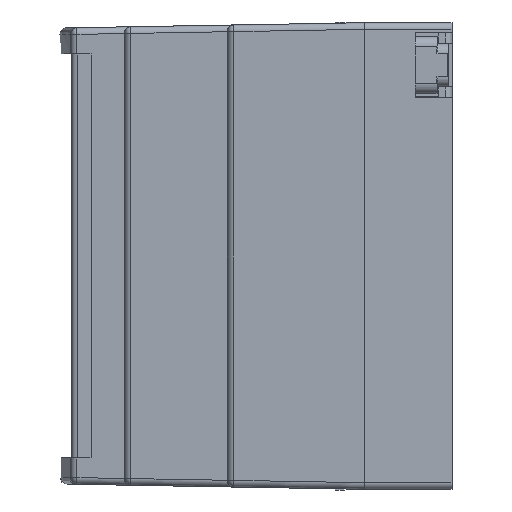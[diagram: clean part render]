
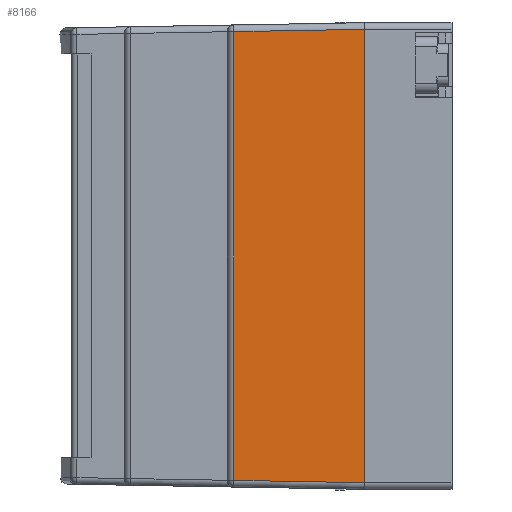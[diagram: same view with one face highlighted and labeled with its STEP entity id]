
A CAD part, left-side view. The second image highlights one B-rep face of the part: STEP entity #8166.
In plain terms, the highlighted planar face has unit normal (-1, 0.018, 0).
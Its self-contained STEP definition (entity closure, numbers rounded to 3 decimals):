
#1165 = EDGE_CURVE ( 'NONE', #5044, #7278, #14351, .T. ) ;
#1943 = VECTOR ( 'NONE', #16712, 1000. ) ;
#2628 = LINE ( 'NONE', #16097, #5694 ) ;
#4192 = ORIENTED_EDGE ( 'NONE', *, *, #8934, .T. ) ;
#5019 = CARTESIAN_POINT ( 'NONE',  ( -45.25, -22.85, 35. ) ) ;
#5044 = VERTEX_POINT ( 'NONE', #14360 ) ;
#5102 = FACE_OUTER_BOUND ( 'NONE', #15574, .T. ) ;
#5449 = CARTESIAN_POINT ( 'NONE',  ( -44.908, -3.233, -33.658 ) ) ;
#5694 = VECTOR ( 'NONE', #9627, 1000. ) ;
#6218 = CARTESIAN_POINT ( 'NONE',  ( -44.908, -3.233, 35. ) ) ;
#6272 = CARTESIAN_POINT ( 'NONE',  ( -46.416, -89.645, 35. ) ) ;
#6316 = VECTOR ( 'NONE', #11636, 1000. ) ;
#6705 = LINE ( 'NONE', #15479, #6316 ) ;
#7278 = VERTEX_POINT ( 'NONE', #5449 ) ;
#7553 = DIRECTION ( 'NONE',  ( -1., 0.017, 0. ) ) ;
#7843 = VECTOR ( 'NONE', #16540, 1000. ) ;
#8166 = ADVANCED_FACE ( 'NONE', ( #5102 ), #15340, .T. ) ;
#8803 = CARTESIAN_POINT ( 'NONE',  ( -45.25, -22.85, -34. ) ) ;
#8934 = EDGE_CURVE ( 'NONE', #14427, #5044, #6705, .T. ) ;
#9182 = ORIENTED_EDGE ( 'NONE', *, *, #1165, .T. ) ;
#9627 = DIRECTION ( 'NONE',  ( -0.017, -1., -0.017 ) ) ;
#11636 = DIRECTION ( 'NONE',  ( 0.017, 1., -0.017 ) ) ;
#12331 = LINE ( 'NONE', #5019, #1943 ) ;
#12413 = EDGE_CURVE ( 'NONE', #7278, #13280, #2628, .T. ) ;
#12679 = AXIS2_PLACEMENT_3D ( 'NONE', #6272, #7553, #16639 ) ;
#12750 = EDGE_CURVE ( 'NONE', #14427, #13280, #12331, .T. ) ;
#13280 = VERTEX_POINT ( 'NONE', #8803 ) ;
#14351 = LINE ( 'NONE', #6218, #7843 ) ;
#14360 = CARTESIAN_POINT ( 'NONE',  ( -44.908, -3.233, 33.658 ) ) ;
#14427 = VERTEX_POINT ( 'NONE', #14490 ) ;
#14490 = CARTESIAN_POINT ( 'NONE',  ( -45.25, -22.85, 34. ) ) ;
#15340 = PLANE ( 'NONE',  #12679 ) ;
#15479 = CARTESIAN_POINT ( 'NONE',  ( -44.891, -2.267, 33.641 ) ) ;
#15574 = EDGE_LOOP ( 'NONE', ( #9182, #16778, #15611, #4192 ) ) ;
#15611 = ORIENTED_EDGE ( 'NONE', *, *, #12750, .F. ) ;
#16097 = CARTESIAN_POINT ( 'NONE',  ( -45.25, -22.867, -34. ) ) ;
#16540 = DIRECTION ( 'NONE',  ( 0., 0., -1. ) ) ;
#16639 = DIRECTION ( 'NONE',  ( -0.017, -1., 0. ) ) ;
#16712 = DIRECTION ( 'NONE',  ( 0., 0., -1. ) ) ;
#16778 = ORIENTED_EDGE ( 'NONE', *, *, #12413, .T. ) ;
